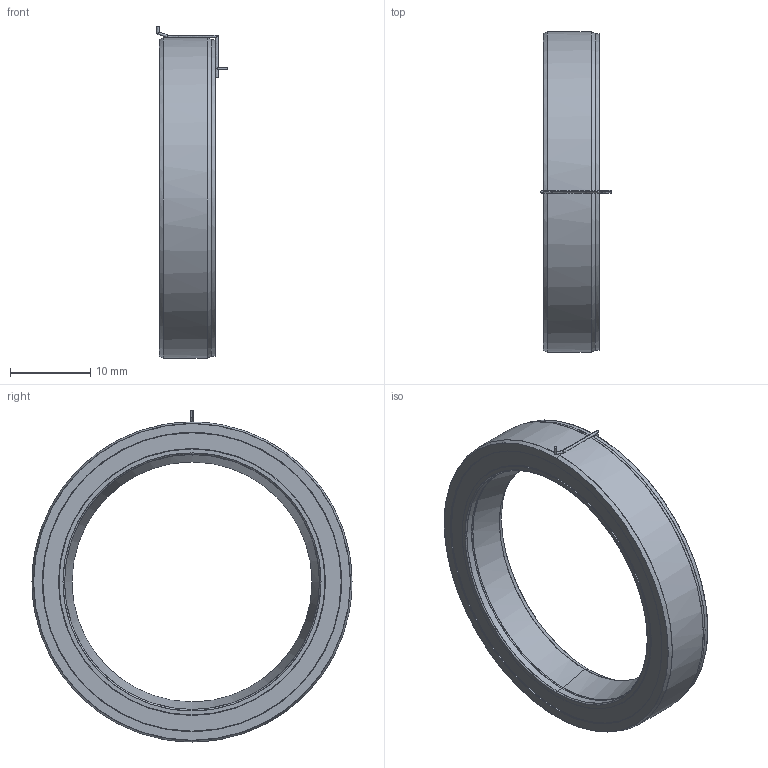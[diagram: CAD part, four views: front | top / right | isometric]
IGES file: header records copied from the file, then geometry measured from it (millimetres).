
Start section: ACIS data in IGES format
Global section: file name: Unknown; native system: ACIS; preprocessor: *IGES writer V5.2; author: unknown author; organization: unknown organization; date: 20041128.183209; units: millimetre
Bounding box: 8.79 x 40 x 41.49 mm (x, y, z)
Surface area: 8446 mm2 (no closed solid volume)
Topology: 0 solids, 0 shells, 105 faces, 682 edges, 682 vertices
Faces by surface type: bspline 105
